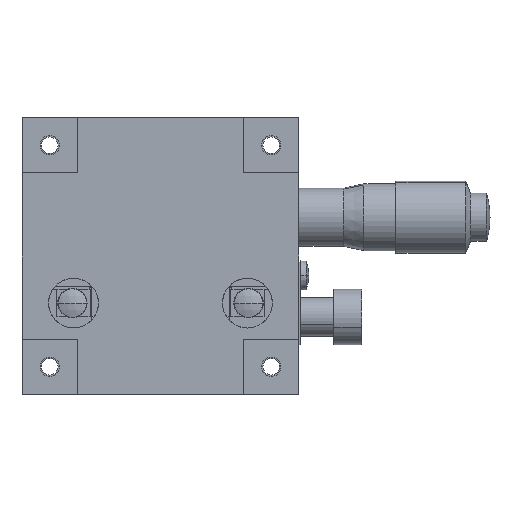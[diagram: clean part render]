
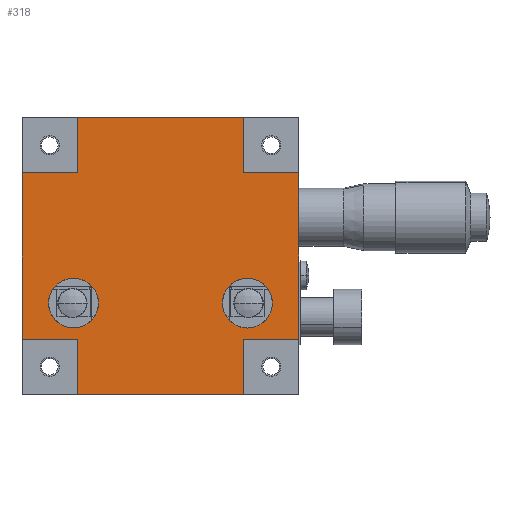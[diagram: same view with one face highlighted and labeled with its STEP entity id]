
A CAD part, front view. The second image highlights one B-rep face of the part: STEP entity #318.
In plain terms, the highlighted planar face has unit normal (0, -1, 0).
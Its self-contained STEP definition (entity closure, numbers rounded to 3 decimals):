
#5 = VERTEX_POINT ( 'NONE', #2440 ) ;
#58 = VERTEX_POINT ( 'NONE', #2519 ) ;
#59 = EDGE_CURVE ( 'NONE', #64, #58, #2518, .T. ) ;
#64 = VERTEX_POINT ( 'NONE', #2574 ) ;
#118 = EDGE_CURVE ( 'NONE', #1762, #1759, #2739, .T. ) ;
#174 = VERTEX_POINT ( 'NONE', #2863 ) ;
#176 = EDGE_CURVE ( 'NONE', #177, #174, #2862, .T. ) ;
#177 = VERTEX_POINT ( 'NONE', #2858 ) ;
#189 = EDGE_CURVE ( 'NONE', #190, #5, #2839, .T. ) ;
#190 = VERTEX_POINT ( 'NONE', #2835 ) ;
#205 = EDGE_CURVE ( 'NONE', #1776, #1773, #2813, .T. ) ;
#257 = VERTEX_POINT ( 'NONE', #2934 ) ;
#264 = VERTEX_POINT ( 'NONE', #3044 ) ;
#290 = EDGE_CURVE ( 'NONE', #174, #361, #2906, .T. ) ;
#306 = ORIENTED_EDGE ( 'NONE', *, *, #205, .F. ) ;
#307 = ORIENTED_EDGE ( 'NONE', *, *, #1775, .F. ) ;
#308 = ORIENTED_EDGE ( 'NONE', *, *, #378, .T. ) ;
#309 = ORIENTED_EDGE ( 'NONE', *, *, #339, .T. ) ;
#310 = ORIENTED_EDGE ( 'NONE', *, *, #311, .F. ) ;
#311 = EDGE_CURVE ( 'NONE', #64, #264, #3029, .T. ) ;
#312 = ORIENTED_EDGE ( 'NONE', *, *, #59, .T. ) ;
#313 = ORIENTED_EDGE ( 'NONE', *, *, #316, .T. ) ;
#315 = VERTEX_POINT ( 'NONE', #3025 ) ;
#316 = EDGE_CURVE ( 'NONE', #58, #315, #3051, .T. ) ;
#318 = ADVANCED_FACE ( 'NONE', ( #3047, #3046, #3045 ), #2901, .F. ) ;
#319 = EDGE_LOOP ( 'NONE', ( #308, #309, #310, #312, #313, #1083, #1263, #1100, #1261, #1245, #1258, #1259 ) ) ;
#321 = EDGE_LOOP ( 'NONE', ( #306, #307 ) ) ;
#339 = EDGE_CURVE ( 'NONE', #376, #264, #2933, .T. ) ;
#361 = VERTEX_POINT ( 'NONE', #2981 ) ;
#376 = VERTEX_POINT ( 'NONE', #2961 ) ;
#378 = EDGE_CURVE ( 'NONE', #257, #376, #2960, .T. ) ;
#1083 = ORIENTED_EDGE ( 'NONE', *, *, #1262, .F. ) ;
#1099 = EDGE_CURVE ( 'NONE', #1260, #190, #4054, .T. ) ;
#1100 = ORIENTED_EDGE ( 'NONE', *, *, #189, .T. ) ;
#1104 = ORIENTED_EDGE ( 'NONE', *, *, #1761, .F. ) ;
#1244 = EDGE_CURVE ( 'NONE', #177, #5, #4321, .T. ) ;
#1245 = ORIENTED_EDGE ( 'NONE', *, *, #176, .T. ) ;
#1246 = EDGE_CURVE ( 'NONE', #257, #361, #4317, .T. ) ;
#1247 = EDGE_LOOP ( 'NONE', ( #1248, #1104 ) ) ;
#1248 = ORIENTED_EDGE ( 'NONE', *, *, #118, .F. ) ;
#1258 = ORIENTED_EDGE ( 'NONE', *, *, #290, .T. ) ;
#1259 = ORIENTED_EDGE ( 'NONE', *, *, #1246, .F. ) ;
#1260 = VERTEX_POINT ( 'NONE', #4438 ) ;
#1261 = ORIENTED_EDGE ( 'NONE', *, *, #1244, .F. ) ;
#1262 = EDGE_CURVE ( 'NONE', #1260, #315, #4437, .T. ) ;
#1263 = ORIENTED_EDGE ( 'NONE', *, *, #1099, .T. ) ;
#1759 = VERTEX_POINT ( 'NONE', #5154 ) ;
#1761 = EDGE_CURVE ( 'NONE', #1759, #1762, #5153, .T. ) ;
#1762 = VERTEX_POINT ( 'NONE', #5148 ) ;
#1773 = VERTEX_POINT ( 'NONE', #5355 ) ;
#1775 = EDGE_CURVE ( 'NONE', #1773, #1776, #5354, .T. ) ;
#1776 = VERTEX_POINT ( 'NONE', #5349 ) ;
#2440 = CARTESIAN_POINT ( 'NONE',  ( -15., 0.5, -25. ) ) ;
#2515 = DIRECTION ( 'NONE',  ( 0., 0., -1. ) ) ;
#2516 = VECTOR ( 'NONE', #2515, 1000. ) ;
#2517 = CARTESIAN_POINT ( 'NONE',  ( -15., 0.5, 25. ) ) ;
#2518 = LINE ( 'NONE', #2517, #2516 ) ;
#2519 = CARTESIAN_POINT ( 'NONE',  ( -15., 0.5, 15. ) ) ;
#2574 = CARTESIAN_POINT ( 'NONE',  ( -15., 0.5, 25. ) ) ;
#2735 = DIRECTION ( 'NONE',  ( 0., 0., -1. ) ) ;
#2736 = DIRECTION ( 'NONE',  ( 0., -1., 0. ) ) ;
#2737 = CARTESIAN_POINT ( 'NONE',  ( -15.7, 0.5, -8.5 ) ) ;
#2738 = AXIS2_PLACEMENT_3D ( 'NONE', #2737, #2736, #2735 ) ;
#2739 = CIRCLE ( 'NONE', #2738, 4.5 ) ;
#2809 = DIRECTION ( 'NONE',  ( 0., 0., -1. ) ) ;
#2810 = DIRECTION ( 'NONE',  ( 0., -1., 0. ) ) ;
#2811 = CARTESIAN_POINT ( 'NONE',  ( 15.7, 0.5, -8.5 ) ) ;
#2812 = AXIS2_PLACEMENT_3D ( 'NONE', #2811, #2810, #2809 ) ;
#2813 = CIRCLE ( 'NONE', #2812, 4.5 ) ;
#2835 = CARTESIAN_POINT ( 'NONE',  ( -15., 0.5, -15. ) ) ;
#2836 = DIRECTION ( 'NONE',  ( 0., 0., -1. ) ) ;
#2837 = VECTOR ( 'NONE', #2836, 1000. ) ;
#2838 = CARTESIAN_POINT ( 'NONE',  ( -15., 0.5, -25. ) ) ;
#2839 = LINE ( 'NONE', #2838, #2837 ) ;
#2858 = CARTESIAN_POINT ( 'NONE',  ( 15., 0.5, -25. ) ) ;
#2859 = DIRECTION ( 'NONE',  ( 0., 0., 1. ) ) ;
#2860 = VECTOR ( 'NONE', #2859, 1000. ) ;
#2861 = CARTESIAN_POINT ( 'NONE',  ( 15., 0.5, -25. ) ) ;
#2862 = LINE ( 'NONE', #2861, #2860 ) ;
#2863 = CARTESIAN_POINT ( 'NONE',  ( 15., 0.5, -15. ) ) ;
#2897 = DIRECTION ( 'NONE',  ( 0., 0., -1. ) ) ;
#2898 = DIRECTION ( 'NONE',  ( 0., 1., 0. ) ) ;
#2899 = CARTESIAN_POINT ( 'NONE',  ( 0., 0.5, 0. ) ) ;
#2900 = AXIS2_PLACEMENT_3D ( 'NONE', #2899, #2898, #2897 ) ;
#2901 = PLANE ( 'NONE',  #2900 ) ;
#2903 = DIRECTION ( 'NONE',  ( 1., 0., 0. ) ) ;
#2904 = VECTOR ( 'NONE', #2903, 1000. ) ;
#2905 = CARTESIAN_POINT ( 'NONE',  ( 25., 0.5, -15. ) ) ;
#2906 = LINE ( 'NONE', #2905, #2904 ) ;
#2930 = DIRECTION ( 'NONE',  ( 0., 0., 1. ) ) ;
#2931 = VECTOR ( 'NONE', #2930, 1000. ) ;
#2932 = CARTESIAN_POINT ( 'NONE',  ( 15., 0.5, 25. ) ) ;
#2933 = LINE ( 'NONE', #2932, #2931 ) ;
#2934 = CARTESIAN_POINT ( 'NONE',  ( 25., 0.5, 15. ) ) ;
#2958 = VECTOR ( 'NONE', #3024, 1000. ) ;
#2959 = CARTESIAN_POINT ( 'NONE',  ( 25., 0.5, 15. ) ) ;
#2960 = LINE ( 'NONE', #2959, #2958 ) ;
#2961 = CARTESIAN_POINT ( 'NONE',  ( 15., 0.5, 15. ) ) ;
#2981 = CARTESIAN_POINT ( 'NONE',  ( 25., 0.5, -15. ) ) ;
#3024 = DIRECTION ( 'NONE',  ( -1., 0., 0. ) ) ;
#3025 = CARTESIAN_POINT ( 'NONE',  ( -25., 0.5, 15. ) ) ;
#3026 = DIRECTION ( 'NONE',  ( 1., 0., 0. ) ) ;
#3027 = VECTOR ( 'NONE', #3026, 1000. ) ;
#3028 = CARTESIAN_POINT ( 'NONE',  ( 25., 0.5, 25. ) ) ;
#3029 = LINE ( 'NONE', #3028, #3027 ) ;
#3044 = CARTESIAN_POINT ( 'NONE',  ( 15., 0.5, 25. ) ) ;
#3045 = FACE_BOUND ( 'NONE', #1247, .T. ) ;
#3046 = FACE_OUTER_BOUND ( 'NONE', #319, .T. ) ;
#3047 = FACE_BOUND ( 'NONE', #321, .T. ) ;
#3048 = DIRECTION ( 'NONE',  ( -1., 0., 0. ) ) ;
#3049 = VECTOR ( 'NONE', #3048, 1000. ) ;
#3050 = CARTESIAN_POINT ( 'NONE',  ( -25., 0.5, 15. ) ) ;
#3051 = LINE ( 'NONE', #3050, #3049 ) ;
#4051 = DIRECTION ( 'NONE',  ( 1., 0., 0. ) ) ;
#4052 = VECTOR ( 'NONE', #4051, 1000. ) ;
#4053 = CARTESIAN_POINT ( 'NONE',  ( -25., 0.5, -15. ) ) ;
#4054 = LINE ( 'NONE', #4053, #4052 ) ;
#4314 = DIRECTION ( 'NONE',  ( 0., 0., -1. ) ) ;
#4315 = VECTOR ( 'NONE', #4314, 1000. ) ;
#4316 = CARTESIAN_POINT ( 'NONE',  ( 25., 0.5, 25. ) ) ;
#4317 = LINE ( 'NONE', #4316, #4315 ) ;
#4318 = DIRECTION ( 'NONE',  ( -1., 0., 0. ) ) ;
#4319 = VECTOR ( 'NONE', #4318, 1000. ) ;
#4320 = CARTESIAN_POINT ( 'NONE',  ( 25., 0.5, -25. ) ) ;
#4321 = LINE ( 'NONE', #4320, #4319 ) ;
#4434 = DIRECTION ( 'NONE',  ( 0., 0., 1. ) ) ;
#4435 = VECTOR ( 'NONE', #4434, 1000. ) ;
#4436 = CARTESIAN_POINT ( 'NONE',  ( -25., 0.5, 25. ) ) ;
#4437 = LINE ( 'NONE', #4436, #4435 ) ;
#4438 = CARTESIAN_POINT ( 'NONE',  ( -25., 0.5, -15. ) ) ;
#5148 = CARTESIAN_POINT ( 'NONE',  ( -15.7, 0.5, -4. ) ) ;
#5149 = DIRECTION ( 'NONE',  ( 0., 0., -1. ) ) ;
#5150 = DIRECTION ( 'NONE',  ( 0., -1., 0. ) ) ;
#5151 = CARTESIAN_POINT ( 'NONE',  ( -15.7, 0.5, -8.5 ) ) ;
#5152 = AXIS2_PLACEMENT_3D ( 'NONE', #5151, #5150, #5149 ) ;
#5153 = CIRCLE ( 'NONE', #5152, 4.5 ) ;
#5154 = CARTESIAN_POINT ( 'NONE',  ( -15.7, 0.5, -13. ) ) ;
#5349 = CARTESIAN_POINT ( 'NONE',  ( 15.7, 0.5, -4. ) ) ;
#5350 = DIRECTION ( 'NONE',  ( 0., 0., -1. ) ) ;
#5351 = DIRECTION ( 'NONE',  ( 0., -1., 0. ) ) ;
#5352 = CARTESIAN_POINT ( 'NONE',  ( 15.7, 0.5, -8.5 ) ) ;
#5353 = AXIS2_PLACEMENT_3D ( 'NONE', #5352, #5351, #5350 ) ;
#5354 = CIRCLE ( 'NONE', #5353, 4.5 ) ;
#5355 = CARTESIAN_POINT ( 'NONE',  ( 15.7, 0.5, -13. ) ) ;
